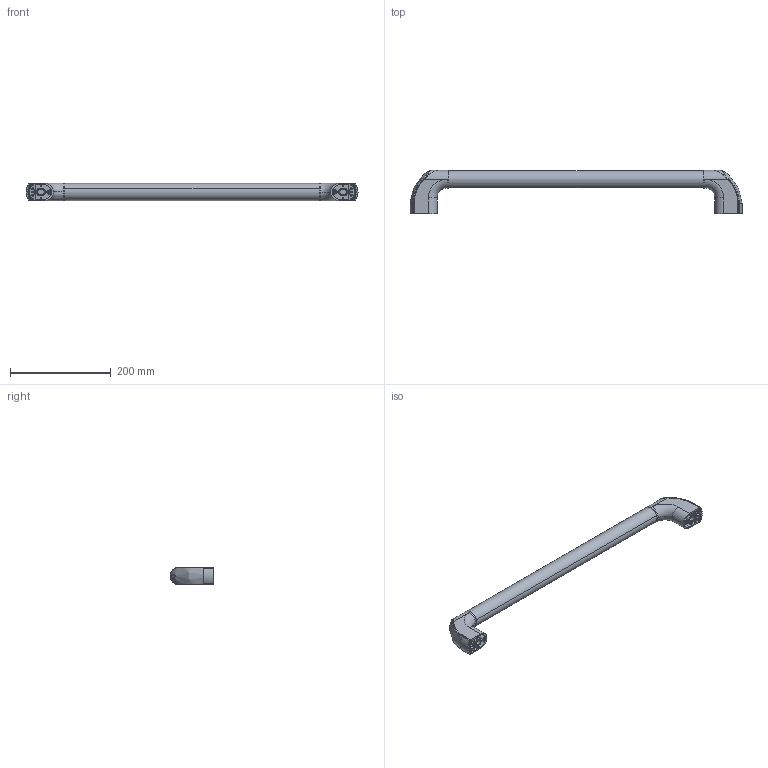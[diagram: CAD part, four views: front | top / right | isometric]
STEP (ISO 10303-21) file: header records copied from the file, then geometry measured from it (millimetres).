
FILE_DESCRIPTION (( 'STEP AP203' ), '1' );
FILE_NAME ('SK4-224-34-600C.STEP', '2017-12-20T07:55:40', ( 'admin' ), ( 'Microsoft' ), 'SwSTEP 2.0', 'SolidWorks 2015', '' );
FILE_SCHEMA (( 'CONFIG_CONTROL_DESIGN' ));
Length unit declared in the file: millimetre
Products named in the file (3): SK4-224-34-600C; SK4-224-34釱赽
Assembly tree (3 placements, depth 2):
  SK4-224-34-600C
    SK4-224-34釱赽  x2
    SK4-224-34-600C
Bounding box: 659 x 85.5 x 35 mm (x, y, z)
Volume: 712674 mm3; surface area: 108120.7 mm2
Topology: 3 solids, 3 shells, 272 faces, 714 edges, 460 vertices
Faces by surface type: plane 174, cylinder 56, bspline 38, torus 4
Entity records: 5919 total; most frequent: CARTESIAN_POINT 2306, ORIENTED_EDGE 716, DIRECTION 624, EDGE_CURVE 358, VECTOR 258, LINE 258, VERTEX_POINT 232, AXIS2_PLACEMENT_3D 183
